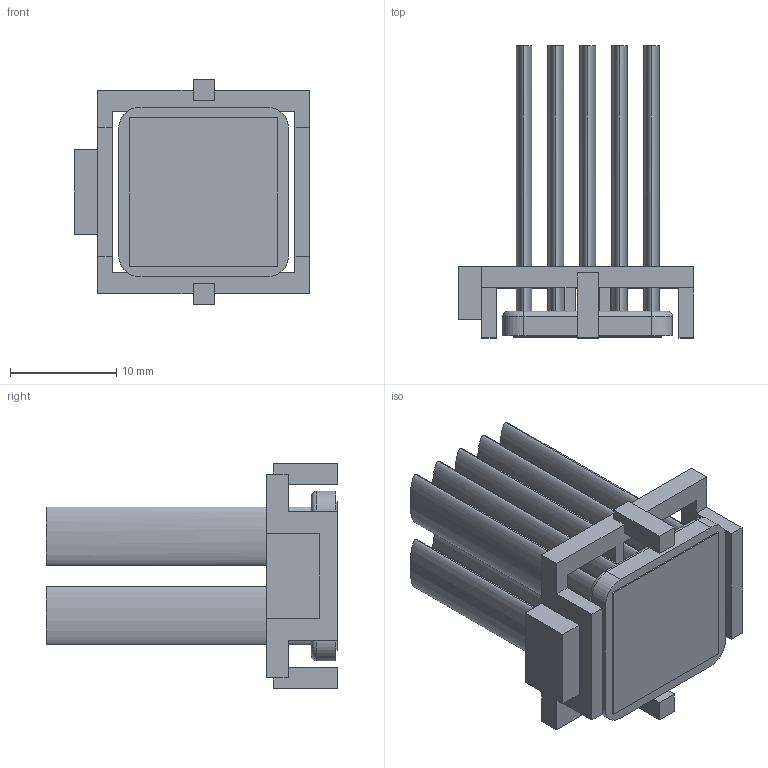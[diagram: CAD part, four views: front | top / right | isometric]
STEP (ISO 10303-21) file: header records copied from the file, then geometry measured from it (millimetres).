
FILE_DESCRIPTION (( 'STEP AP214' ), '1' );
FILE_NAME ('INM16001-27W-2.3O.STEP', '2023-03-29T23:21:32', ( '' ), ( '' ), 'SwSTEP 2.0', 'SolidWorks 2020', '' );
FILE_SCHEMA (( 'AUTOMOTIVE_DESIGN' ));
Length unit declared in the file: millimetre
Products named in the file (1): INM16001-27W-2.3O
Bounding box: 22.2 x 27.5 x 21.2 mm (x, y, z)
Volume: 2795.7 mm3; surface area: 5055.3 mm2
Topology: 3 solids, 3 shells, 99 faces, 244 edges, 160 vertices
Faces by surface type: plane 67, bspline 20, cylinder 8, torus 4
Entity records: 4079 total; most frequent: CARTESIAN_POINT 764, ORIENTED_EDGE 488, DIRECTION 384, EDGE_CURVE 244, VECTOR 184, LINE 184, VERTEX_POINT 160, EDGE_LOOP 110
